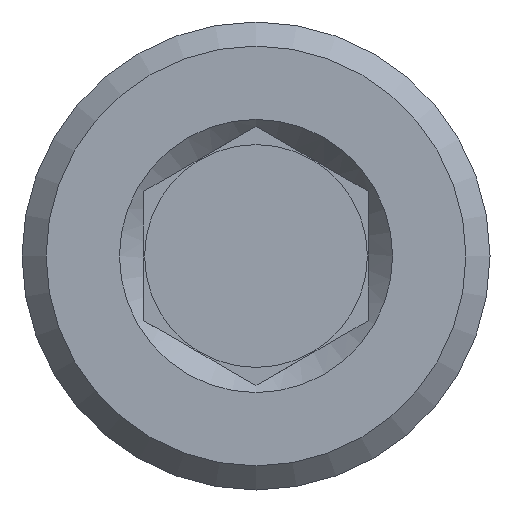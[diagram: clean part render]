
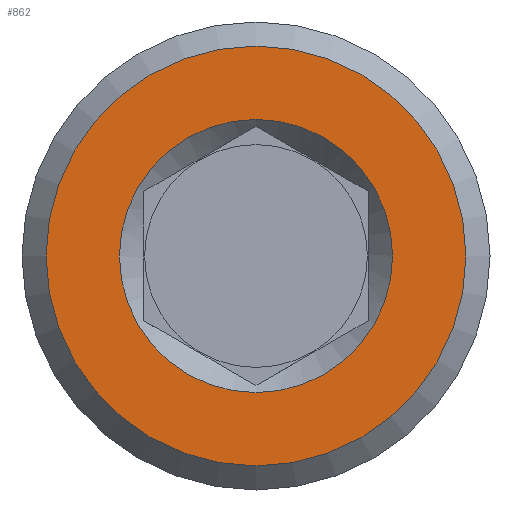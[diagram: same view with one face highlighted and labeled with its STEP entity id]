
A CAD part, front view. The second image highlights one B-rep face of the part: STEP entity #862.
In plain terms, the highlighted planar face has unit normal (0, -1, 0).
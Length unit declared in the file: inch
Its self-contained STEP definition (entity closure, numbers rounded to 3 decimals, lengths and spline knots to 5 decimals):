
#27=FACE_BOUND('',#182,.T.);
#76=CIRCLE('',#945,0.19);
#77=CIRCLE('',#947,0.292);
#129=FACE_OUTER_BOUND('',#181,.T.);
#181=EDGE_LOOP('',(#764));
#182=EDGE_LOOP('',(#765));
#398=VERTEX_POINT('',#2030);
#399=VERTEX_POINT('',#2034);
#523=EDGE_CURVE('',#398,#398,#76,.T.);
#524=EDGE_CURVE('',#399,#399,#77,.T.);
#764=ORIENTED_EDGE('',*,*,#524,.F.);
#765=ORIENTED_EDGE('',*,*,#523,.F.);
#815=PLANE('',#946);
#862=ADVANCED_FACE('',(#129,#27),#815,.T.);
#945=AXIS2_PLACEMENT_3D('',#2032,#1130,#1131);
#946=AXIS2_PLACEMENT_3D('',#2033,#1132,#1133);
#947=AXIS2_PLACEMENT_3D('',#2035,#1134,#1135);
#1130=DIRECTION('center_axis',(0.,-1.,0.));
#1131=DIRECTION('ref_axis',(0.,0.,1.));
#1132=DIRECTION('center_axis',(0.,-1.,0.));
#1133=DIRECTION('ref_axis',(0.,0.,-1.));
#1134=DIRECTION('center_axis',(0.,1.,0.));
#1135=DIRECTION('ref_axis',(0.,0.,1.));
#2030=CARTESIAN_POINT('',(0.,0.,-0.19));
#2032=CARTESIAN_POINT('Origin',(0.,0.,0.));
#2033=CARTESIAN_POINT('Origin',(0.,0.,-0.155));
#2034=CARTESIAN_POINT('',(0.,0.,-0.292));
#2035=CARTESIAN_POINT('Origin',(0.,0.,0.));
